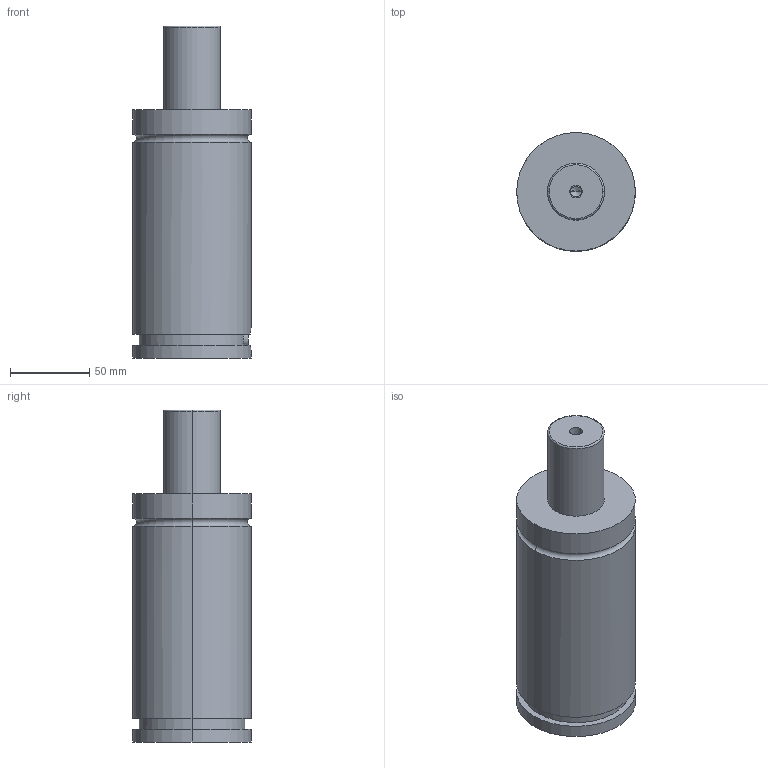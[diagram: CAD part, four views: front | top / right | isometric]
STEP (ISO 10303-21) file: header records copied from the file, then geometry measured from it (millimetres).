
FILE_DESCRIPTION(/* description */ (''),/* implementation_level */ '2;1');
FILE_NAME(/* name */ '3d_gse75-50_03850_r00.stp',/* time_stamp */ '2011-01-10T14:15:18+09:00',/* author */ ('MISUMI'),/* organization */ (''),/* preprocessor_version */ 'ST-DEVELOPER v11',/* originating_system */ 'UGS - NX 5.0',/* authorisation */ '');
FILE_SCHEMA (('CONFIG_CONTROL_DESIGN'));
Length unit declared in the file: millimetre
Products named in the file (1): 3d_gse75-50_03850_r00
Bounding box: 75 x 75 x 210 mm (x, y, z)
Volume: 734355.7 mm3; surface area: 56443.9 mm2
Topology: 1 solids, 1 shells, 75 faces, 161 edges, 103 vertices
Faces by surface type: cylinder 34, plane 27, cone 10, torus 4
Entity records: 2145 total; most frequent: DIRECTION 393, CARTESIAN_POINT 360, ORIENTED_EDGE 318, AXIS2_PLACEMENT_3D 164, EDGE_CURVE 159, VERTEX_POINT 103, EDGE_LOOP 92, CIRCLE 88
